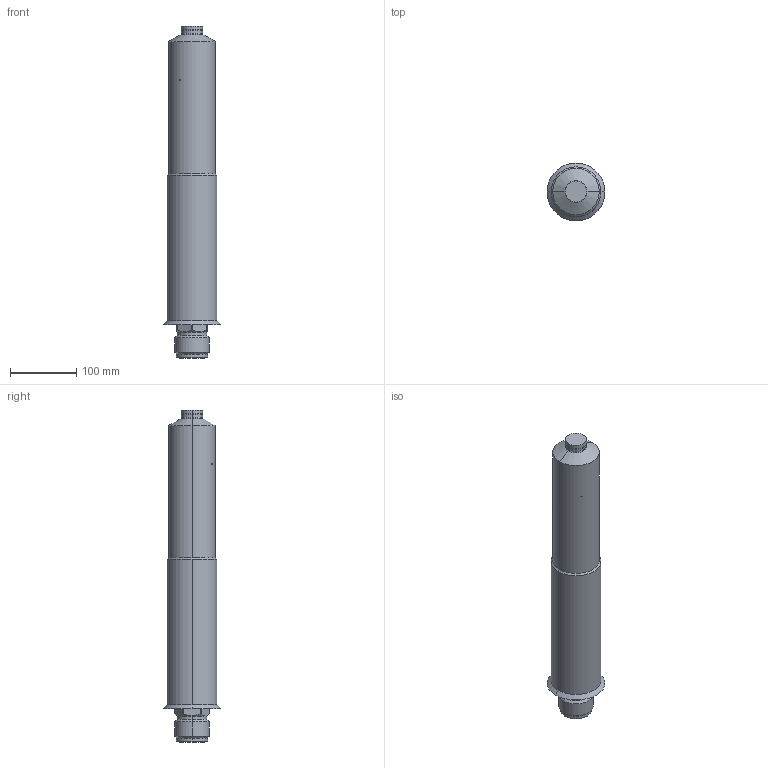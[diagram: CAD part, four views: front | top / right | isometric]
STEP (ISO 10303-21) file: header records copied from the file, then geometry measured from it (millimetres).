
FILE_DESCRIPTION (( 'STEP AP214' ), '1' );
FILE_NAME ('T20_CLOSED_450_HELICAL_RD.STEP', '2016-09-08T18:38:08', ( '' ), ( '' ), 'SwSTEP 2.0', 'SolidWorks 2015', '' );
FILE_SCHEMA (( 'AUTOMOTIVE_DESIGN' ));
Length unit declared in the file: millimetre
Products named in the file (1): T20_CLOSED_450_HELICAL_RD
Bounding box: 87 x 87 x 500 mm (x, y, z)
Volume: 2686945 mm3; surface area: 204349.9 mm2
Topology: 2 solids, 2 shells, 320 faces, 869 edges, 554 vertices
Faces by surface type: cylinder 106, plane 94, bspline 66, torus 30, cone 24
Entity records: 27514 total; most frequent: CARTESIAN_POINT 16650, ORIENTED_EDGE 1738, DIRECTION 1314, EDGE_CURVE 869, VERTEX_POINT 554, AXIS2_PLACEMENT_3D 510, EDGE_LOOP 329, UNCERTAINTY_MEASURE_WITH_UNIT 324
